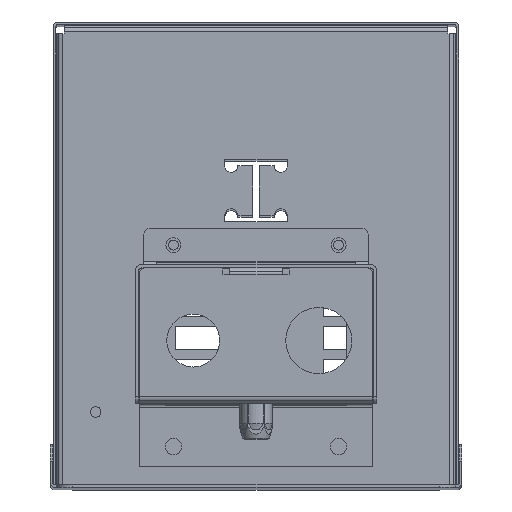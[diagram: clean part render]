
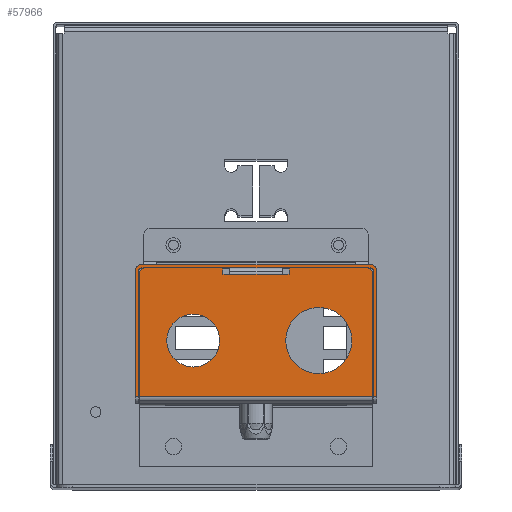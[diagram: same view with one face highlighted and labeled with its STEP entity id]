
A CAD part, top view. The second image highlights one B-rep face of the part: STEP entity #57966.
In plain terms, the highlighted planar face has unit normal (0, 0, 1).
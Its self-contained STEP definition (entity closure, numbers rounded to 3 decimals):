
#7934=LINE('',#94972,#14120);
#7941=LINE('',#94986,#14127);
#7944=LINE('',#94991,#14130);
#7947=LINE('',#95000,#14133);
#7956=LINE('',#95031,#14142);
#7958=LINE('',#95035,#14144);
#7959=LINE('',#95038,#14145);
#7970=LINE('',#95069,#14156);
#7991=LINE('',#95157,#14177);
#7997=LINE('',#95168,#14183);
#7998=LINE('',#95169,#14184);
#8016=LINE('',#95242,#14202);
#8020=LINE('',#95250,#14206);
#8024=LINE('',#95263,#14210);
#8025=LINE('',#95265,#14211);
#8026=LINE('',#95267,#14212);
#8027=LINE('',#95270,#14213);
#8028=LINE('',#95272,#14214);
#14120=VECTOR('',#70858,10.);
#14127=VECTOR('',#70871,10.);
#14130=VECTOR('',#70876,10.);
#14133=VECTOR('',#70885,10.);
#14142=VECTOR('',#70916,10.);
#14144=VECTOR('',#70920,10.);
#14145=VECTOR('',#70923,10.);
#14156=VECTOR('',#70964,10.);
#14177=VECTOR('',#71043,10.);
#14183=VECTOR('',#71049,10.);
#14184=VECTOR('',#71050,10.);
#14202=VECTOR('',#71124,10.);
#14206=VECTOR('',#71132,10.);
#14210=VECTOR('',#71144,10.);
#14211=VECTOR('',#71147,10.);
#14212=VECTOR('',#71148,10.);
#14213=VECTOR('',#71151,10.);
#14214=VECTOR('',#71152,10.);
#16260=PLANE('',#60353);
#17106=FACE_BOUND('',#23400,.T.);
#17107=FACE_BOUND('',#23401,.T.);
#17108=FACE_BOUND('',#23402,.T.);
#19836=FACE_OUTER_BOUND('',#23399,.T.);
#23399=EDGE_LOOP('',(#51977,#51978,#51979,#51980,#51981,#51982,#51983,#51984,
#51985,#51986,#51987,#51988,#51989,#51990,#51991,#51992,#51993,#51994));
#23400=EDGE_LOOP('',(#51995,#51996,#51997,#51998,#51999,#52000));
#23401=EDGE_LOOP('',(#52001));
#23402=EDGE_LOOP('',(#52002));
#23721=CIRCLE('',#60260,2.);
#23726=CIRCLE('',#60267,2.);
#23732=CIRCLE('',#60282,10.);
#23733=CIRCLE('',#60284,8.);
#23753=CIRCLE('',#60338,1.);
#23754=CIRCLE('',#60340,2.);
#23760=CIRCLE('',#60354,2.);
#23761=CIRCLE('',#60355,1.);
#28824=VERTEX_POINT('',#94969);
#28825=VERTEX_POINT('',#94971);
#28829=VERTEX_POINT('',#94984);
#28830=VERTEX_POINT('',#94989);
#28831=VERTEX_POINT('',#94993);
#28832=VERTEX_POINT('',#94995);
#28833=VERTEX_POINT('',#94999);
#28838=VERTEX_POINT('',#95013);
#28839=VERTEX_POINT('',#95014);
#28844=VERTEX_POINT('',#95029);
#28845=VERTEX_POINT('',#95033);
#28846=VERTEX_POINT('',#95037);
#28850=VERTEX_POINT('',#95056);
#28851=VERTEX_POINT('',#95059);
#28871=VERTEX_POINT('',#95156);
#28876=VERTEX_POINT('',#95166);
#28897=VERTEX_POINT('',#95223);
#28898=VERTEX_POINT('',#95227);
#28899=VERTEX_POINT('',#95229);
#28902=VERTEX_POINT('',#95239);
#28903=VERTEX_POINT('',#95241);
#28907=VERTEX_POINT('',#95256);
#28910=VERTEX_POINT('',#95261);
#28911=VERTEX_POINT('',#95266);
#28912=VERTEX_POINT('',#95268);
#28913=VERTEX_POINT('',#95271);
#36499=EDGE_CURVE('',#28824,#28825,#7934,.T.);
#36507=EDGE_CURVE('',#28824,#28829,#7941,.T.);
#36510=EDGE_CURVE('',#28830,#28825,#7944,.T.);
#36512=EDGE_CURVE('',#28831,#28832,#23721,.T.);
#36514=EDGE_CURVE('',#28832,#28833,#7947,.T.);
#36522=EDGE_CURVE('',#28838,#28839,#23726,.T.);
#36532=EDGE_CURVE('',#28844,#28838,#7956,.T.);
#36534=EDGE_CURVE('',#28829,#28845,#7958,.T.);
#36535=EDGE_CURVE('',#28846,#28830,#7959,.T.);
#36544=EDGE_CURVE('',#28850,#28850,#23732,.T.);
#36545=EDGE_CURVE('',#28851,#28851,#23733,.T.);
#36549=EDGE_CURVE('',#28833,#28844,#7970,.T.);
#36583=EDGE_CURVE('',#28871,#28839,#7991,.T.);
#36589=EDGE_CURVE('',#28831,#28876,#7997,.T.);
#36590=EDGE_CURVE('',#28845,#28846,#7998,.T.);
#36618=EDGE_CURVE('',#28876,#28897,#23753,.T.);
#36620=EDGE_CURVE('',#28899,#28898,#23754,.T.);
#36624=EDGE_CURVE('',#28902,#28903,#8016,.T.);
#36629=EDGE_CURVE('',#28902,#28899,#8020,.T.);
#36635=EDGE_CURVE('',#28910,#28907,#8024,.T.);
#36636=EDGE_CURVE('',#28897,#28903,#8025,.T.);
#36637=EDGE_CURVE('',#28898,#28911,#8026,.T.);
#36638=EDGE_CURVE('',#28911,#28912,#23760,.T.);
#36639=EDGE_CURVE('',#28912,#28907,#8027,.T.);
#36640=EDGE_CURVE('',#28910,#28913,#8028,.T.);
#36641=EDGE_CURVE('',#28913,#28871,#23761,.T.);
#51977=ORIENTED_EDGE('',*,*,#36522,.F.);
#51978=ORIENTED_EDGE('',*,*,#36532,.F.);
#51979=ORIENTED_EDGE('',*,*,#36549,.F.);
#51980=ORIENTED_EDGE('',*,*,#36514,.F.);
#51981=ORIENTED_EDGE('',*,*,#36512,.F.);
#51982=ORIENTED_EDGE('',*,*,#36589,.T.);
#51983=ORIENTED_EDGE('',*,*,#36618,.T.);
#51984=ORIENTED_EDGE('',*,*,#36636,.T.);
#51985=ORIENTED_EDGE('',*,*,#36624,.F.);
#51986=ORIENTED_EDGE('',*,*,#36629,.T.);
#51987=ORIENTED_EDGE('',*,*,#36620,.T.);
#51988=ORIENTED_EDGE('',*,*,#36637,.T.);
#51989=ORIENTED_EDGE('',*,*,#36638,.T.);
#51990=ORIENTED_EDGE('',*,*,#36639,.T.);
#51991=ORIENTED_EDGE('',*,*,#36635,.F.);
#51992=ORIENTED_EDGE('',*,*,#36640,.T.);
#51993=ORIENTED_EDGE('',*,*,#36641,.T.);
#51994=ORIENTED_EDGE('',*,*,#36583,.T.);
#51995=ORIENTED_EDGE('',*,*,#36590,.T.);
#51996=ORIENTED_EDGE('',*,*,#36535,.T.);
#51997=ORIENTED_EDGE('',*,*,#36510,.T.);
#51998=ORIENTED_EDGE('',*,*,#36499,.F.);
#51999=ORIENTED_EDGE('',*,*,#36507,.T.);
#52000=ORIENTED_EDGE('',*,*,#36534,.T.);
#52001=ORIENTED_EDGE('',*,*,#36544,.T.);
#52002=ORIENTED_EDGE('',*,*,#36545,.T.);
#57966=ADVANCED_FACE('',(#19836,#17106,#17107,#17108),#16260,.T.);
#60260=AXIS2_PLACEMENT_3D('',#94996,#70880,#70881);
#60267=AXIS2_PLACEMENT_3D('',#95015,#70899,#70900);
#60282=AXIS2_PLACEMENT_3D('',#95057,#70945,#70946);
#60284=AXIS2_PLACEMENT_3D('',#95060,#70949,#70950);
#60338=AXIS2_PLACEMENT_3D('',#95225,#71104,#71105);
#60340=AXIS2_PLACEMENT_3D('',#95230,#71109,#71110);
#60353=AXIS2_PLACEMENT_3D('',#95264,#71145,#71146);
#60354=AXIS2_PLACEMENT_3D('',#95269,#71149,#71150);
#60355=AXIS2_PLACEMENT_3D('',#95273,#71153,#71154);
#70858=DIRECTION('',(1.,0.,0.));
#70871=DIRECTION('',(-1.,0.,0.));
#70876=DIRECTION('',(-1.,0.,0.));
#70880=DIRECTION('center_axis',(0.,0.,
-1.));
#70881=DIRECTION('ref_axis',(0.707,0.707,0.));
#70885=DIRECTION('',(0.,-1.,0.));
#70899=DIRECTION('center_axis',(0.,0.,
-1.));
#70900=DIRECTION('ref_axis',(-0.707,0.707,0.));
#70916=DIRECTION('',(0.,1.,0.));
#70920=DIRECTION('',(0.,1.,0.));
#70923=DIRECTION('',(0.,-1.,0.));
#70945=DIRECTION('center_axis',(0.,0.,
-1.));
#70946=DIRECTION('ref_axis',(-1.,0.,0.));
#70949=DIRECTION('center_axis',(0.,0.,
-1.));
#70950=DIRECTION('ref_axis',(-1.,0.,0.));
#70964=DIRECTION('',(-1.,0.,0.));
#71043=DIRECTION('',(1.,0.,0.));
#71049=DIRECTION('',(1.,0.,0.));
#71050=DIRECTION('',(1.,0.,0.));
#71104=DIRECTION('center_axis',(0.,0.,
-1.));
#71105=DIRECTION('ref_axis',(-1.,0.,0.));
#71109=DIRECTION('center_axis',(0.,0.,
1.));
#71110=DIRECTION('ref_axis',(1.,0.,0.));
#71124=DIRECTION('',(-1.,0.,0.));
#71132=DIRECTION('',(0.,1.,0.));
#71144=DIRECTION('',(-1.,0.,0.));
#71145=DIRECTION('center_axis',(0.,0.,
1.));
#71146=DIRECTION('ref_axis',(1.,0.,0.));
#71147=DIRECTION('',(0.,-1.,0.));
#71148=DIRECTION('',(-1.,0.,0.));
#71149=DIRECTION('center_axis',(0.,0.,
1.));
#71150=DIRECTION('ref_axis',(0.,1.,0.));
#71151=DIRECTION('',(0.,-1.,0.));
#71152=DIRECTION('',(0.,1.,0.));
#71153=DIRECTION('center_axis',(0.,0.,
-1.));
#71154=DIRECTION('ref_axis',(0.,-1.,0.));
#94969=CARTESIAN_POINT('',(-8.,57.9,244.3));
#94971=CARTESIAN_POINT('',(8.,57.9,244.3));
#94972=CARTESIAN_POINT('',(0.,57.9,244.3));
#94984=CARTESIAN_POINT('',(-10.,57.9,244.3));
#94986=CARTESIAN_POINT('',(-4.5,57.9,244.3));
#94989=CARTESIAN_POINT('',(10.,57.9,244.3));
#94991=CARTESIAN_POINT('',(4.5,57.9,244.3));
#94993=CARTESIAN_POINT('',(33.4,59.9,244.3));
#94995=CARTESIAN_POINT('',(35.4,57.9,244.3));
#94996=CARTESIAN_POINT('Origin',(33.4,57.9,244.3));
#94999=CARTESIAN_POINT('',(35.4,20.9,244.3));
#95000=CARTESIAN_POINT('',(35.4,18.9,244.3));
#95013=CARTESIAN_POINT('',(-35.4,57.9,244.3));
#95014=CARTESIAN_POINT('',(-33.4,59.9,244.3));
#95015=CARTESIAN_POINT('Origin',(-33.4,57.9,244.3));
#95029=CARTESIAN_POINT('',(-35.4,20.9,244.3));
#95031=CARTESIAN_POINT('',(-35.4,58.9,244.3));
#95033=CARTESIAN_POINT('',(-10.,59.9,244.3));
#95035=CARTESIAN_POINT('',(-10.,58.9,244.3));
#95037=CARTESIAN_POINT('',(10.,59.9,244.3));
#95038=CARTESIAN_POINT('',(10.,38.9,244.3));
#95056=CARTESIAN_POINT('',(29.,37.9,244.3));
#95057=CARTESIAN_POINT('Origin',(19.,37.9,244.3));
#95059=CARTESIAN_POINT('',(-11.,37.9,244.3));
#95060=CARTESIAN_POINT('Origin',(-19.,37.9,244.3));
#95069=CARTESIAN_POINT('',(0.,20.9,244.3));
#95156=CARTESIAN_POINT('',(-34.5,59.9,244.3));
#95157=CARTESIAN_POINT('',(-34.5,59.9,244.3));
#95166=CARTESIAN_POINT('',(34.5,59.9,244.3));
#95168=CARTESIAN_POINT('',(-34.5,59.9,244.3));
#95169=CARTESIAN_POINT('',(-34.5,59.9,244.3));
#95223=CARTESIAN_POINT('',(35.5,58.9,244.3));
#95225=CARTESIAN_POINT('Origin',(34.5,58.9,244.3));
#95227=CARTESIAN_POINT('',(34.5,60.9,244.3));
#95229=CARTESIAN_POINT('',(36.5,58.9,244.3));
#95230=CARTESIAN_POINT('Origin',(34.5,58.9,244.3));
#95239=CARTESIAN_POINT('',(36.5,20.9,244.3));
#95241=CARTESIAN_POINT('',(35.5,20.9,244.3));
#95242=CARTESIAN_POINT('',(17.75,20.9,244.3));
#95250=CARTESIAN_POINT('',(36.5,18.9,244.3));
#95256=CARTESIAN_POINT('',(-36.5,20.9,244.3));
#95261=CARTESIAN_POINT('',(-35.5,20.9,244.3));
#95263=CARTESIAN_POINT('',(-18.25,20.9,244.3));
#95264=CARTESIAN_POINT('Origin',(0.,48.917,
244.3));
#95265=CARTESIAN_POINT('',(35.5,58.9,244.3));
#95266=CARTESIAN_POINT('',(-34.5,60.9,244.3));
#95267=CARTESIAN_POINT('',(34.5,60.9,244.3));
#95268=CARTESIAN_POINT('',(-36.5,58.9,244.3));
#95269=CARTESIAN_POINT('Origin',(-34.5,58.9,244.3));
#95270=CARTESIAN_POINT('',(-36.5,58.9,244.3));
#95271=CARTESIAN_POINT('',(-35.5,58.9,244.3));
#95272=CARTESIAN_POINT('',(-35.5,18.9,244.3));
#95273=CARTESIAN_POINT('Origin',(-34.5,58.9,244.3));
